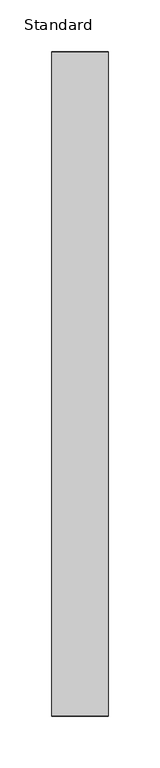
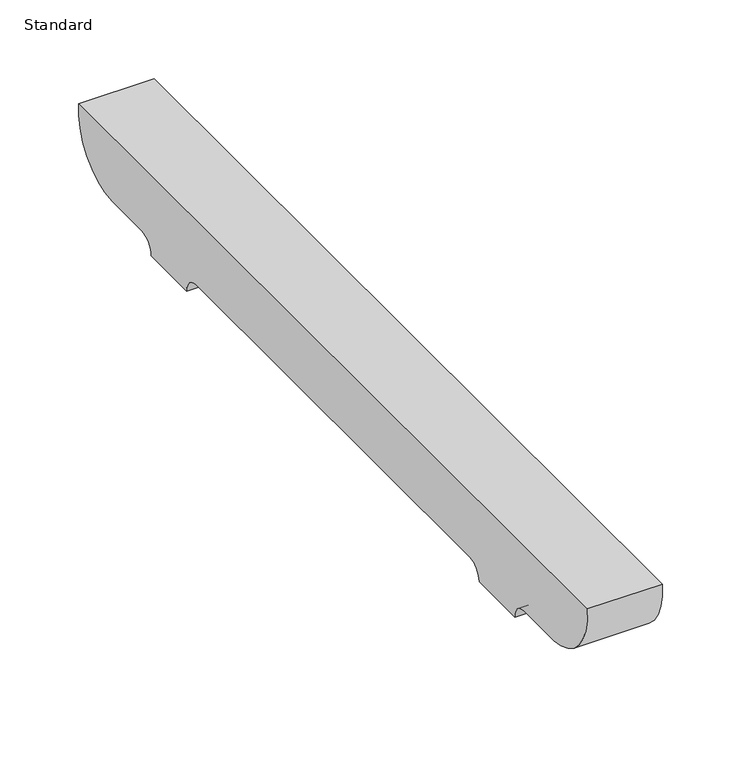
"""IFC4 building model written with IfcOpenShell, lengths in millimetres: furniture geometry, BDG_BossDesign_Tbls_AgentTables4Legs_MiddleCrossBeamNested : Standard."""

from ifc_helpers import new_model, si_unit, point, frame, frame_2d, origin, place, context, project, spatial, polyline, circle_curve, trimmed, segment, composite_curve, outline, extrude, source, transform, mapped, element, save


def standard_9c482cb1(model_context):
    return source(origin(), model_context, "Body", "SweptSolid", [
        extrude(outline(composite_curve([segment(polyline([(280.5450184, 672.0), (242.7000122, 672.0)]), True, "CONTINUOUS"), segment(trimmed(circle_curve(frame_2d((242.7000122, 660.0)), 12.0), [point((242.7000122, 672.0))], [point((230.7000122, 660.0))], True, "CARTESIAN"), True, "CONTINUOUS"), segment(polyline([(230.7000122, 660.0), (185.7000122, 660.0)]), True, "CONTINUOUS"), segment(trimmed(circle_curve(frame_2d((173.7000122, 660.0)), 12.0), [point((185.7000122, 660.0))], [point((173.7000122, 672.0))], True, "CARTESIAN"), True, "CONTINUOUS"), segment(polyline([(173.7000122, 672.0), (-173.7000122, 672.0)]), True, "CONTINUOUS"), segment(trimmed(circle_curve(frame_2d((-173.7000122, 660.0)), 12.0), [point((-173.7000122, 672.0))], [point((-185.7000122, 660.0))], True, "CARTESIAN"), True, "CONTINUOUS"), segment(polyline([(-185.7000122, 660.0), (-230.7000122, 660.0)]), True, "CONTINUOUS"), segment(trimmed(circle_curve(frame_2d((-242.7000122, 660.0)), 12.0), [point((-230.7000122, 660.0))], [point((-242.7000122, 672.0))], True, "CARTESIAN"), True, "CONTINUOUS"), segment(polyline([(-242.7000122, 672.0), (-280.5450184, 672.0)]), True, "CONTINUOUS"), segment(trimmed(circle_curve(frame_2d((-278.2220439, 716.5514119)), 44.6119324), [point((-280.5450184, 672.0))], [point((-322.5, 722.0))], False, "CARTESIAN"), True, "CONTINUOUS"), segment(polyline([(-322.5, 722.0), (322.5, 722.0)]), True, "CONTINUOUS"), segment(trimmed(circle_curve(frame_2d((278.2220439, 716.5514119)), 44.6119324), [point((322.5, 722.0))], [point((280.5450184, 672.0))], False, "CARTESIAN"), True, "CONTINUOUS")], self_intersect=False)), frame((-27.5, 0.0, 0.0), z_axis=(1.0, 0.0, 0.0), x_axis=(0.0, 1.0, 0.0)), (0.0, 0.0, 1.0), 55.0),
    ])


if __name__ == "__main__":
    model = new_model("IFC4")
    model_context = context("Model", 3, world=origin())
    ifc_project = project(units=[si_unit("LENGTHUNIT", "METRE", prefix="MILLI")], contexts=[model_context])
    site = spatial("IfcSite", under=ifc_project)
    building = spatial("IfcBuilding", under=site)
    placement = place(None, origin())
    standard_shape = standard_9c482cb1(model_context)
    element("IfcFurniture", 1, ObjectType="BDG_BossDesign_Tbls_AgentTables4Legs_MiddleCrossBeamNested : Standard", at=placement, inside=building, context=model_context, shape_type="MappedRepresentation", body=[
        mapped(standard_shape, transform((0.0, 0.0, 0.0), x_axis=(1.0, 0.0, 0.0), y_axis=(0.0, 1.0, 0.0), z_axis=(0.0, 0.0, 1.0))),
    ])
    save(model, "model.ifc")
